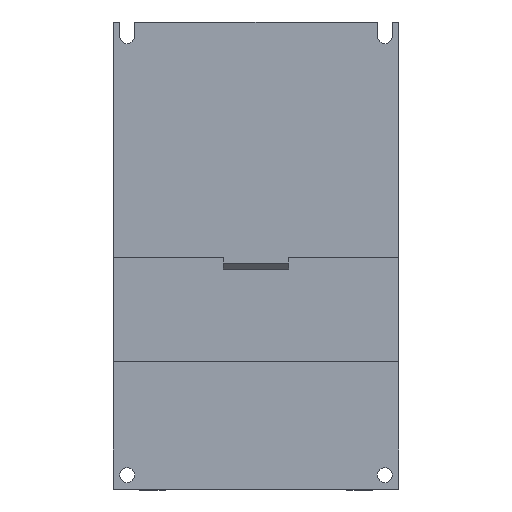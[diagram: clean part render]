
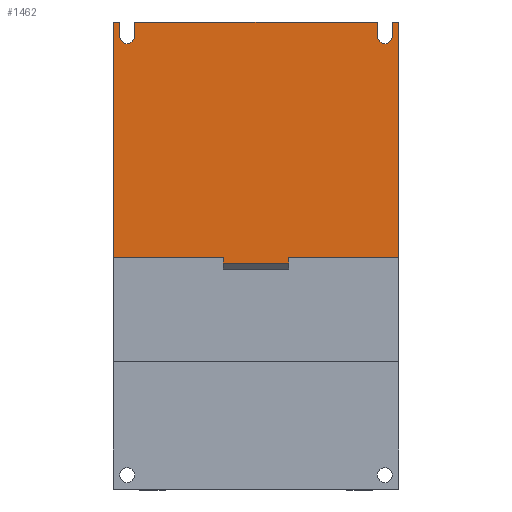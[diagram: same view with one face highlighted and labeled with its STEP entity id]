
A CAD part, top view. The second image highlights one B-rep face of the part: STEP entity #1462.
In plain terms, the highlighted planar face has unit normal (0, 0, 1).
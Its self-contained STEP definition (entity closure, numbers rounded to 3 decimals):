
#1462=ADVANCED_FACE('',(#36210),#36212,.T.);
#36210=FACE_BOUND('',#36211,.T.);
#36211=EDGE_LOOP('',(#66138,#66139,#66140,#66141,#66142,#66143,#66144,#66145,#66146,
#66147,#66148,#66149,#66150,#66151,#66152,#66153));
#36212=PLANE('',#36213);
#36213=AXIS2_PLACEMENT_3D('',#36214,#36215,#36216);
#36214=CARTESIAN_POINT('',(0.,0.,7.));
#36215=DIRECTION('',(0.,0.,1.));
#36216=DIRECTION('',(1.,0.,0.));
#66138=ORIENTED_EDGE('',*,*,#89091,.T.);
#66139=ORIENTED_EDGE('',*,*,#89092,.T.);
#66140=ORIENTED_EDGE('',*,*,#89093,.T.);
#66141=ORIENTED_EDGE('',*,*,#89094,.T.);
#66142=ORIENTED_EDGE('',*,*,#89095,.F.);
#66143=ORIENTED_EDGE('',*,*,#89096,.F.);
#66144=ORIENTED_EDGE('',*,*,#89097,.T.);
#66145=ORIENTED_EDGE('',*,*,#89098,.T.);
#66146=ORIENTED_EDGE('',*,*,#89099,.T.);
#66147=ORIENTED_EDGE('',*,*,#89100,.T.);
#66148=ORIENTED_EDGE('',*,*,#89101,.T.);
#66149=ORIENTED_EDGE('',*,*,#89102,.T.);
#66150=ORIENTED_EDGE('',*,*,#89103,.T.);
#66151=ORIENTED_EDGE('',*,*,#88621,.T.);
#66152=ORIENTED_EDGE('',*,*,#89090,.T.);
#66153=ORIENTED_EDGE('',*,*,#89104,.T.);
#88621=EDGE_CURVE('',#100118,#100116,#100119,.T.);
#89090=EDGE_CURVE('',#100116,#101041,#101043,.F.);
#89091=EDGE_CURVE('',#101044,#101045,#101046,.F.);
#89092=EDGE_CURVE('',#101045,#101047,#101048,.T.);
#89093=EDGE_CURVE('',#101047,#101049,#101050,.T.);
#89094=EDGE_CURVE('',#101049,#101051,#101052,.F.);
#89095=EDGE_CURVE('',#101053,#101051,#101054,.T.);
#89096=EDGE_CURVE('',#101055,#101053,#101056,.T.);
#89097=EDGE_CURVE('',#101055,#101057,#101058,.T.);
#89098=EDGE_CURVE('',#101057,#101059,#101060,.F.);
#89099=EDGE_CURVE('',#101059,#101061,#101062,.T.);
#89100=EDGE_CURVE('',#101061,#101063,#101064,.T.);
#89101=EDGE_CURVE('',#101063,#101065,#101066,.F.);
#89102=EDGE_CURVE('',#101065,#101067,#101068,.F.);
#89103=EDGE_CURVE('',#101067,#100118,#101069,.F.);
#89104=EDGE_CURVE('',#101041,#101044,#101070,.F.);
#100116=VERTEX_POINT('',#119316);
#100118=VERTEX_POINT('',#119320);
#100119=LINE('',#119321,#119322);
#101041=VERTEX_POINT('',#121371);
#101043=LINE('',#121375,#121376);
#101044=VERTEX_POINT('',#121378);
#101045=VERTEX_POINT('',#121379);
#101046=LINE('',#121380,#121381);
#101047=VERTEX_POINT('',#121383);
#101048=LINE('',#121384,#121385);
#101049=VERTEX_POINT('',#121387);
#101050=LINE('',#121388,#121389);
#101051=VERTEX_POINT('',#121391);
#101052=LINE('',#121392,#121393);
#101053=VERTEX_POINT('',#121395);
#101054=LINE('',#121396,#121397);
#101055=VERTEX_POINT('',#121399);
#101056=LINE('',#121400,#121401);
#101057=VERTEX_POINT('',#121403);
#101058=LINE('',#121404,#121405);
#101059=VERTEX_POINT('',#121407);
#101060=LINE('',#121408,#121409);
#101061=VERTEX_POINT('',#121411);
#101062=LINE('',#121412,#121413);
#101063=VERTEX_POINT('',#121415);
#101064=LINE('',#121416,#121417);
#101065=VERTEX_POINT('',#121419);
#101066=LINE('',#121420,#121421);
#101067=VERTEX_POINT('',#121423);
#101068=CIRCLE('',#121424,2.5);
#101069=LINE('',#121428,#121429);
#101070=CIRCLE('',#121431,2.5);
#119316=CARTESIAN_POINT('',(-40.75,78.5,7.));
#119320=CARTESIAN_POINT('',(40.75,78.5,7.));
#119321=CARTESIAN_POINT('',(40.75,78.5,7.));
#119322=VECTOR('',#119323,1.);
#119323=DIRECTION('',(-1.,0.,0.));
#121371=CARTESIAN_POINT('',(-40.75,73.75,7.));
#121375=CARTESIAN_POINT('',(-40.75,73.75,7.));
#121376=VECTOR('',#121377,1.);
#121377=DIRECTION('',(0.,1.,0.));
#121378=CARTESIAN_POINT('',(-45.75,73.75,7.));
#121379=CARTESIAN_POINT('',(-45.75,78.5,7.));
#121380=CARTESIAN_POINT('',(-45.75,78.5,7.));
#121381=VECTOR('',#121382,1.);
#121382=DIRECTION('',(0.,-1.,0.));
#121383=CARTESIAN_POINT('',(-48.,78.5,7.));
#121384=CARTESIAN_POINT('',(-45.75,78.5,7.));
#121385=VECTOR('',#121386,1.);
#121386=DIRECTION('',(-1.,0.,0.));
#121387=CARTESIAN_POINT('',(-48.,-0.5,7.));
#121388=CARTESIAN_POINT('',(-48.,78.5,7.));
#121389=VECTOR('',#121390,1.);
#121390=DIRECTION('',(0.,-1.,0.));
#121391=CARTESIAN_POINT('',(-11.,-0.5,7.));
#121392=CARTESIAN_POINT('',(-11.,-0.5,7.));
#121393=VECTOR('',#121394,1.);
#121394=DIRECTION('',(-1.,0.,0.));
#121395=CARTESIAN_POINT('',(-11.,-2.5,7.));
#121396=CARTESIAN_POINT('',(-11.,-2.5,7.));
#121397=VECTOR('',#121398,1.);
#121398=DIRECTION('',(0.,1.,0.));
#121399=CARTESIAN_POINT('',(11.,-2.5,7.));
#121400=CARTESIAN_POINT('',(11.,-2.5,7.));
#121401=VECTOR('',#121402,1.);
#121402=DIRECTION('',(-1.,0.,0.));
#121403=CARTESIAN_POINT('',(11.,-0.5,7.));
#121404=CARTESIAN_POINT('',(11.,-2.5,7.));
#121405=VECTOR('',#121406,1.);
#121406=DIRECTION('',(0.,1.,0.));
#121407=CARTESIAN_POINT('',(48.,-0.5,7.));
#121408=CARTESIAN_POINT('',(48.,-0.5,7.));
#121409=VECTOR('',#121410,1.);
#121410=DIRECTION('',(-1.,0.,0.));
#121411=CARTESIAN_POINT('',(48.,78.5,7.));
#121412=CARTESIAN_POINT('',(48.,-0.5,7.));
#121413=VECTOR('',#121414,1.);
#121414=DIRECTION('',(0.,1.,0.));
#121415=CARTESIAN_POINT('',(45.75,78.5,7.));
#121416=CARTESIAN_POINT('',(48.,78.5,7.));
#121417=VECTOR('',#121418,1.);
#121418=DIRECTION('',(-1.,0.,0.));
#121419=CARTESIAN_POINT('',(45.75,73.75,7.));
#121420=CARTESIAN_POINT('',(45.75,73.75,7.));
#121421=VECTOR('',#121422,1.);
#121422=DIRECTION('',(0.,1.,0.));
#121423=CARTESIAN_POINT('',(40.75,73.75,7.));
#121424=AXIS2_PLACEMENT_3D('',#121425,#121426,#121427);
#121425=CARTESIAN_POINT('',(43.25,73.75,7.));
#121426=DIRECTION('',(0.,0.,1.));
#121427=DIRECTION('',(-1.,0.,0.));
#121428=CARTESIAN_POINT('',(40.75,78.5,7.));
#121429=VECTOR('',#121430,1.);
#121430=DIRECTION('',(0.,-1.,0.));
#121431=AXIS2_PLACEMENT_3D('',#121432,#121433,#121434);
#121432=CARTESIAN_POINT('',(-43.25,73.75,7.));
#121433=DIRECTION('',(0.,0.,1.));
#121434=DIRECTION('',(-1.,0.,0.));
